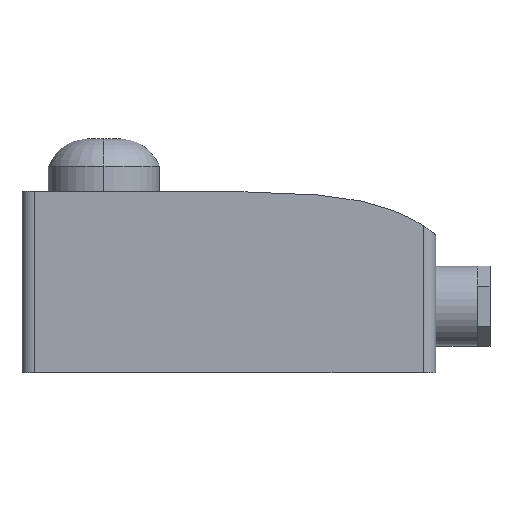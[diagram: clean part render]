
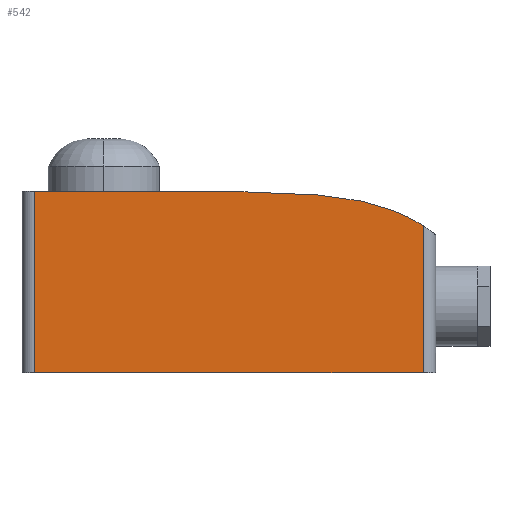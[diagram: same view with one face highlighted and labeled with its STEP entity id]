
A CAD part, left-side view. The second image highlights one B-rep face of the part: STEP entity #542.
In plain terms, the highlighted planar face has unit normal (-1, 0, 0).
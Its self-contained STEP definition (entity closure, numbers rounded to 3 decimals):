
#7 = VERTEX_POINT ( 'NONE', #875 ) ;
#59 = LINE ( 'NONE', #712, #359 ) ;
#60 = ORIENTED_EDGE ( 'NONE', *, *, #406, .T. ) ;
#77 = LINE ( 'NONE', #720, #913 ) ;
#95 = EDGE_CURVE ( 'NONE', #548, #590, #77, .T. ) ;
#96 = CARTESIAN_POINT ( 'NONE',  ( -19.5, 46.5, 43.5 ) ) ;
#125 = VECTOR ( 'NONE', #650, 1000. ) ;
#141 = EDGE_CURVE ( 'NONE', #488, #7, #59, .T. ) ;
#150 = CARTESIAN_POINT ( 'NONE',  ( -19.5, -33.09, 43.995 ) ) ;
#157 = CARTESIAN_POINT ( 'NONE',  ( -19.5, 46.5, 43.5 ) ) ;
#170 = ORIENTED_EDGE ( 'NONE', *, *, #141, .T. ) ;
#174 = DIRECTION ( 'NONE',  ( 1., 0., 0. ) ) ;
#208 = DIRECTION ( 'NONE',  ( 0., 0., -1. ) ) ;
#235 = FACE_OUTER_BOUND ( 'NONE', #608, .T. ) ;
#269 = VERTEX_POINT ( 'NONE', #777 ) ;
#346 = B_SPLINE_CURVE_WITH_KNOTS ( 'NONE', 3,
 ( #517, #804, #150, #708 ),
 .UNSPECIFIED., .F., .F.,
 ( 4, 4 ),
 ( 0., 0.929 ),
 .UNSPECIFIED. ) ;
#359 = VECTOR ( 'NONE', #862, 1000. ) ;
#372 = DIRECTION ( 'NONE',  ( 0., -1., 0. ) ) ;
#381 = VECTOR ( 'NONE', #208, 1000. ) ;
#387 = PLANE ( 'NONE',  #780 ) ;
#406 = EDGE_CURVE ( 'NONE', #548, #488, #869, .T. ) ;
#436 = CARTESIAN_POINT ( 'NONE',  ( -19.5, 46.5, 0. ) ) ;
#467 = EDGE_CURVE ( 'NONE', #590, #269, #346, .T. ) ;
#488 = VERTEX_POINT ( 'NONE', #436 ) ;
#517 = CARTESIAN_POINT ( 'NONE',  ( -19.5, 0., 43.5 ) ) ;
#542 = ADVANCED_FACE ( 'NONE', ( #235 ), #387, .F. ) ;
#548 = VERTEX_POINT ( 'NONE', #157 ) ;
#590 = VERTEX_POINT ( 'NONE', #683 ) ;
#608 = EDGE_LOOP ( 'NONE', ( #726, #619, #674, #60, #170 ) ) ;
#619 = ORIENTED_EDGE ( 'NONE', *, *, #467, .F. ) ;
#638 = LINE ( 'NONE', #855, #125 ) ;
#650 = DIRECTION ( 'NONE',  ( 0., 0., -1. ) ) ;
#674 = ORIENTED_EDGE ( 'NONE', *, *, #95, .F. ) ;
#683 = CARTESIAN_POINT ( 'NONE',  ( -19.5, 0., 43.5 ) ) ;
#708 = CARTESIAN_POINT ( 'NONE',  ( -19.5, -46.5, 35.244 ) ) ;
#712 = CARTESIAN_POINT ( 'NONE',  ( -19.5, 46.5, 0. ) ) ;
#720 = CARTESIAN_POINT ( 'NONE',  ( -19.5, 46.5, 43.5 ) ) ;
#726 = ORIENTED_EDGE ( 'NONE', *, *, #817, .F. ) ;
#777 = CARTESIAN_POINT ( 'NONE',  ( -19.5, -46.5, 35.244 ) ) ;
#780 = AXIS2_PLACEMENT_3D ( 'NONE', #96, #174, #818 ) ;
#804 = CARTESIAN_POINT ( 'NONE',  ( -19.5, -15.316, 42.705 ) ) ;
#817 = EDGE_CURVE ( 'NONE', #269, #7, #638, .T. ) ;
#818 = DIRECTION ( 'NONE',  ( 0., 1., 0. ) ) ;
#855 = CARTESIAN_POINT ( 'NONE',  ( -19.5, -46.5, 43.5 ) ) ;
#862 = DIRECTION ( 'NONE',  ( 0., -1., 0. ) ) ;
#869 = LINE ( 'NONE', #931, #381 ) ;
#875 = CARTESIAN_POINT ( 'NONE',  ( -19.5, -46.5, 0. ) ) ;
#913 = VECTOR ( 'NONE', #372, 1000. ) ;
#931 = CARTESIAN_POINT ( 'NONE',  ( -19.5, 46.5, 43.5 ) ) ;
